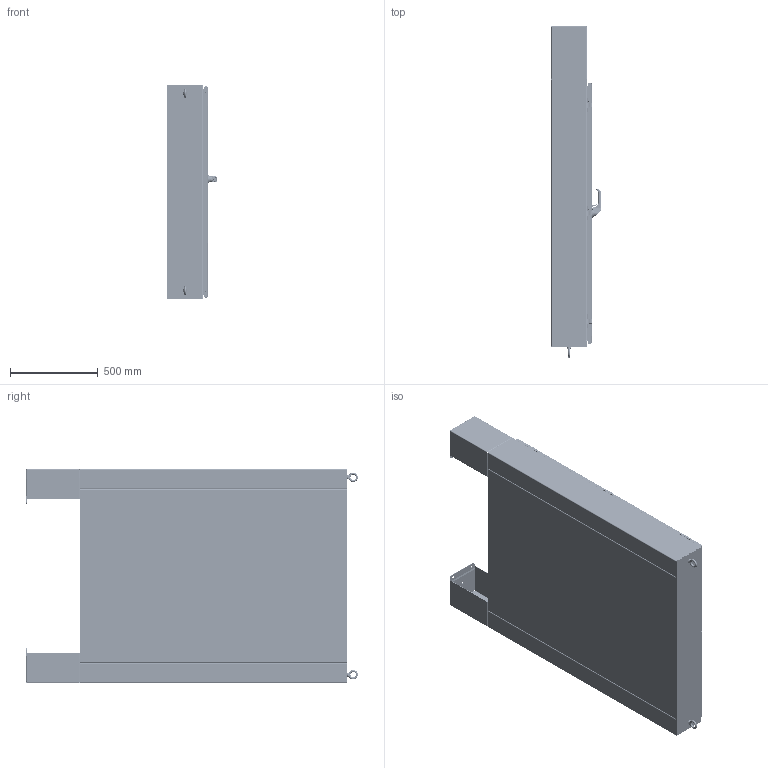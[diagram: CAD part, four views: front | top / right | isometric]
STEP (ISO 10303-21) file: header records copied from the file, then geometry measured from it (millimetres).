
FILE_DESCRIPTION((''),'2;1');
FILE_NAME('MODEL-151_ASM','2025-05-09T13:23:15',('andrew.knowlton'),('SAGINAW CONTROL & ENGINEERING'),'CREO PARAMETRIC BY PTC INC, 2021284','CREO PARAMETRIC BY PTC INC, 2021284','');
FILE_SCHEMA(('AUTOMOTIVE_DESIGN { 1 0 10303 214 1 1 1 1 }'));
Length unit declared in the file: inch
Products named in the file (73): MODEL-151-BTM; MODEL-151-RS; MODEL-151-LS; MODEL-151-TP; MODEL-151-BCK; MODEL-151-MSTR; 100837; 111267; 100882; 100955_SCREW_MTG; 100955_PADLOCK_CATCH; 100955_SCREW_LARGE; 100955_INSERT_SHAFT; 100955_INSERT_PKH; 100955_GASKET; 100955_O-RING; 100955_BASE; 100955_SPRING; 100955_HANDLE; 100955_CAM_SHAFT; 100955_HANDLE_ASM; 100955_CAM_ADAPTER; 100955_EARTH_NUT; 100955_FLANGE_NUT; 100955_CAM_NUT; 100955_KEY_INSERT; 100955_SPRING_CAM; 100955_TORSION_SPRING; 100955_SCREW_INSERT; 100955_ASM; 102236; 100030; 102236_ASM; MODEL-151-ROD-UPR; 128146; 128145; 128144; 102482; MODEL-151-ROD-UPR_ASM; 128143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
Assembly tree (150 placements, depth 5):
  MODEL-151_ASM
    MODEL-151-BTM
    MODEL-151-RS
    MODEL-151-LS
    MODEL-151-TP
    MODEL-151-BCK
    MODEL-151-MASTER-DR-ASSY_ASM
      MODEL-151-MSTR
      100837  x5
      111267
      100882  x10
      100955_ASM
        100955_SCREW_MTG
        100955_PADLOCK_CATCH
        100955_SCREW_LARGE  x2
        100955_INSERT_SHAFT
        100955_INSERT_PKH
        100955_GASKET
        100955_O-RING
        100955_BASE
        100955_SPRING
        100955_HANDLE_ASM
          100955_HANDLE
          100955_CAM_SHAFT
        100955_CAM_ADAPTER
        100955_EARTH_NUT
        100955_FLANGE_NUT
        100955_CAM_NUT
        100955_KEY_INSERT
        100955_SPRING_CAM
        100955_TORSION_SPRING
        100955_SCREW_INSERT
      102236_ASM
        102236
        100030  x2
      MODEL-151-ROD-UPR_ASM
        MODEL-151-ROD-UPR
        128146
        128145
        128144
        102482  x2
      128143  x2
      112504  x2
      MODEL-151-ROD-LWR_ASM
        MODEL-151-ROD-LWR
        128146
        128145
        128144
        102482  x2
      MODEL-151-PR-GSKT-M
      128257_ASM  x3
        128257
      126393  x3
      102483  x3
      101369_ASM  x3
        101369
        101369-STUD
      101221  x3
    MODEL-151-SLAVE-DR-ASSY_ASM
      MODEL-151-SLV
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Bounding box: 281.45 x 1890.1 x 1219.2 mm (x, y, z)
Volume: 22110505.1 mm3; surface area: 16036412.5 mm2
Topology: 159 solids, 159 shells, 15023 faces, 38580 edges, 23925 vertices
Faces by surface type: plane 5188, cylinder 3963, bspline 3696, torus 1051, cone 757, sphere 338, extrusion 30
Entity records: 396072 total; most frequent: CARTESIAN_POINT 156428, ORIENTED_EDGE 36450, DIRECTION 33301, PRESENTATION_STYLE_ASSIGNMENT 19025, STYLED_ITEM 19020, EDGE_CURVE 18225, CURVE_STYLE 18177, AXIS2_PLACEMENT_3D 12437
